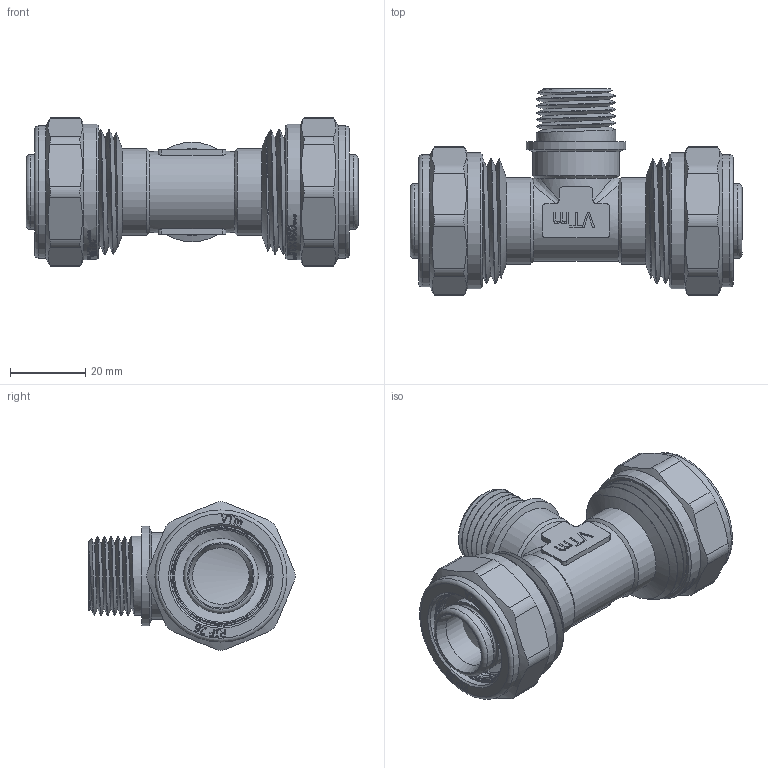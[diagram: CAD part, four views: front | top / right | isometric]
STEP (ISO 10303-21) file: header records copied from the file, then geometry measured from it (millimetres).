
FILE_DESCRIPTION(/* description */ (''),/* implementation_level */ '2;1');
FILE_NAME(/* name */ 'F:\Артём\00000\Работа удаленка\Обжимные фитинги\VTm.333.N.260426.stp',/* time_stamp */ '2020-07-30T10:06:57+03:00',/* author */ ('almis'),/* organization */ (''),/* preprocessor_version */ 'ST-DEVELOPER v18',/* originating_system */ 'Autodesk Inventor 2020',/* authorisation */ '');
FILE_SCHEMA (('AUTOMOTIVE_DESIGN { 1 0 10303 214 3 1 1 }'));
Length unit declared in the file: millimetre
Products named in the file (1): VTm.332.N.260526
Bounding box: 88 x 54.69 x 39.39 mm (x, y, z)
Volume: 41656.7 mm3; surface area: 33234.5 mm2
Topology: 3 solids, 3 shells, 1438 faces, 4090 edges, 2766 vertices
Faces by surface type: bspline 768, plane 395, cylinder 190, torus 48, cone 37
Full cylindrical faces by diameter (mm): 15 x2, 17.4 x11, 19.8 x10, 21 x5, 23 x3, 24.516 x8, 25.435 x10, 26.2 x2, 26.4 x1, 26.7 x2, 28.5 x2, 28.7 x8, 30.5 x4, 33.3 x2, 35 x2, 36 x2
Entity records: 64284 total; most frequent: CARTESIAN_POINT 31828, ORIENTED_EDGE 8182, DIRECTION 4298, EDGE_CURVE 4091, VERTEX_POINT 2767, LINE 1734, VECTOR 1734, B_SPLINE_CURVE_WITH_KNOTS 1714
